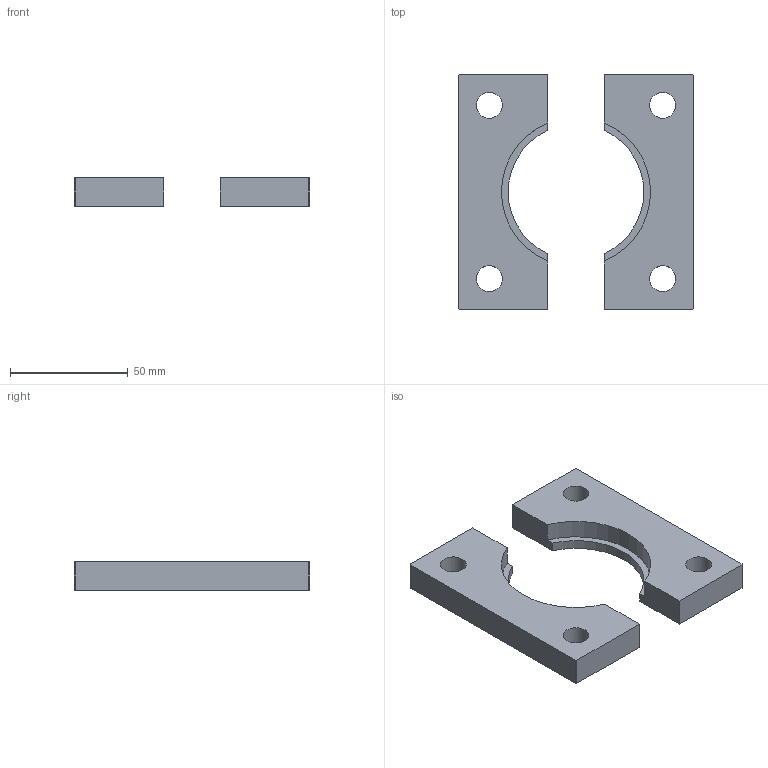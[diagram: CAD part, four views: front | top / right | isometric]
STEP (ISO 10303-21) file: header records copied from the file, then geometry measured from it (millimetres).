
FILE_DESCRIPTION(/* description */ (''),/* implementation_level */ '2;1');
FILE_NAME(/* name */ 'C:\Users\Jefferson\Desktop\Biblioteca Pro Nitro 2024\Flanges\PNB-55-XXX\PNB-55-063.stp',/* time_stamp */ '2024-01-26T15:33:29-03:00',/* author */ ('Jefferson'),/* organization */ (''),/* preprocessor_version */ 'ST-DEVELOPER v18.1',/* originating_system */ 'Autodesk Inventor 2021',/* authorisation */ '');
FILE_SCHEMA (('AUTOMOTIVE_DESIGN { 1 0 10303 214 3 1 1 }'));
Length unit declared in the file: millimetre
Products named in the file (1): PNB-55-063
Bounding box: 100 x 100 x 12 mm (x, y, z)
Volume: 68334.1 mm3; surface area: 20577.8 mm2
Topology: 2 solids, 2 shells, 201 faces, 546 edges, 364 vertices
Faces by surface type: bspline 98, plane 95, cylinder 8
Full cylindrical faces by diameter (mm): 11 x4
Entity records: 6860 total; most frequent: CARTESIAN_POINT 2386, ORIENTED_EDGE 1092, DIRECTION 574, EDGE_CURVE 546, VERTEX_POINT 364, LINE 334, VECTOR 334, EDGE_LOOP 224
